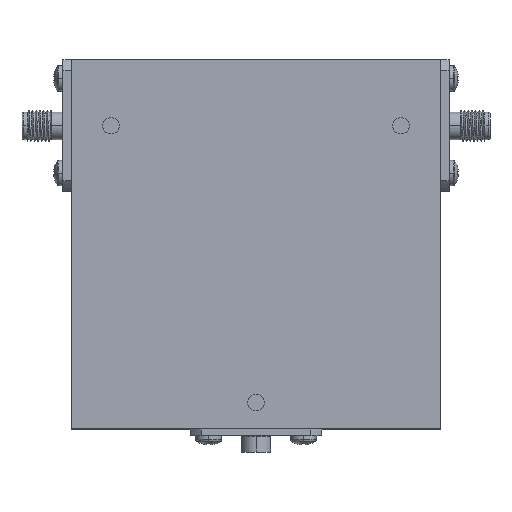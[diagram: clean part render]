
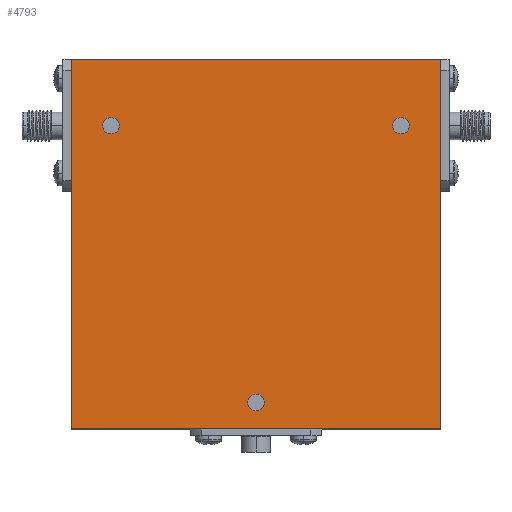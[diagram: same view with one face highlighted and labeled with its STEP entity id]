
A CAD part, top view. The second image highlights one B-rep face of the part: STEP entity #4793.
In plain terms, the highlighted planar face has unit normal (0, 0, 1).
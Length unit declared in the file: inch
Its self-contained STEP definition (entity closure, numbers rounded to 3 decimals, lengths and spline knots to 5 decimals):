
#22 = EDGE_LOOP ( 'NONE', ( #4270, #1710, #1861, #2369 ) ) ;
#32 = VECTOR ( 'NONE', #1581, 39.37008 ) ;
#103 = CARTESIAN_POINT ( 'NONE',  ( 0., 0., 0.5 ) ) ;
#271 = CIRCLE ( 'NONE', #2562, 0.0625 ) ;
#295 = CARTESIAN_POINT ( 'NONE',  ( 1.1, 0.9, 0.5 ) ) ;
#374 = CARTESIAN_POINT ( 'NONE',  ( 1.4, 1.4, 0.5 ) ) ;
#435 = LINE ( 'NONE', #3773, #1905 ) ;
#510 = CIRCLE ( 'NONE', #4164, 0.0625 ) ;
#545 = VERTEX_POINT ( 'NONE', #4291 ) ;
#560 = EDGE_CURVE ( 'NONE', #1837, #545, #510, .T. ) ;
#570 = DIRECTION ( 'NONE',  ( 1., 0., 0. ) ) ;
#584 = DIRECTION ( 'NONE',  ( 0., 0., 1. ) ) ;
#613 = ORIENTED_EDGE ( 'NONE', *, *, #753, .F. ) ;
#748 = AXIS2_PLACEMENT_3D ( 'NONE', #103, #2744, #3478 ) ;
#753 = EDGE_CURVE ( 'NONE', #545, #1837, #2393, .T. ) ;
#801 = ORIENTED_EDGE ( 'NONE', *, *, #4073, .F. ) ;
#824 = DIRECTION ( 'NONE',  ( 1., 0., 0. ) ) ;
#858 = DIRECTION ( 'NONE',  ( 0., -1., 0. ) ) ;
#877 = DIRECTION ( 'NONE',  ( 1., 0., 0. ) ) ;
#904 = LINE ( 'NONE', #374, #4659 ) ;
#968 = EDGE_CURVE ( 'NONE', #1325, #4665, #271, .T. ) ;
#1023 = LINE ( 'NONE', #4206, #32 ) ;
#1325 = VERTEX_POINT ( 'NONE', #3265 ) ;
#1428 = AXIS2_PLACEMENT_3D ( 'NONE', #4624, #2835, #570 ) ;
#1474 = VECTOR ( 'NONE', #858, 39.37008 ) ;
#1498 = DIRECTION ( 'NONE',  ( 1., 0., 0. ) ) ;
#1518 = CARTESIAN_POINT ( 'NONE',  ( 1.4, -1.4, 0.5 ) ) ;
#1575 = CIRCLE ( 'NONE', #4261, 0.0625 ) ;
#1581 = DIRECTION ( 'NONE',  ( -1., 0., 0. ) ) ;
#1680 = DIRECTION ( 'NONE',  ( 1., 0., 0. ) ) ;
#1710 = ORIENTED_EDGE ( 'NONE', *, *, #2735, .T. ) ;
#1745 = CARTESIAN_POINT ( 'NONE',  ( 1.4, 1.4, 0.5 ) ) ;
#1837 = VERTEX_POINT ( 'NONE', #1840 ) ;
#1840 = CARTESIAN_POINT ( 'NONE',  ( 1.1625, 0.9, 0.5 ) ) ;
#1861 = ORIENTED_EDGE ( 'NONE', *, *, #3351, .T. ) ;
#1893 = CARTESIAN_POINT ( 'NONE',  ( -1.4, 1.4, 0.5 ) ) ;
#1905 = VECTOR ( 'NONE', #1498, 39.37008 ) ;
#1927 = EDGE_CURVE ( 'NONE', #2027, #2877, #904, .T. ) ;
#1933 = EDGE_CURVE ( 'NONE', #2695, #2027, #435, .T. ) ;
#1991 = FACE_OUTER_BOUND ( 'NONE', #22, .T. ) ;
#2027 = VERTEX_POINT ( 'NONE', #1518 ) ;
#2369 = ORIENTED_EDGE ( 'NONE', *, *, #1933, .T. ) ;
#2393 = CIRCLE ( 'NONE', #4474, 0.0625 ) ;
#2468 = CARTESIAN_POINT ( 'NONE',  ( 1.1, 0.9, 0.5 ) ) ;
#2486 = CIRCLE ( 'NONE', #4518, 0.0625 ) ;
#2554 = ORIENTED_EDGE ( 'NONE', *, *, #968, .F. ) ;
#2562 = AXIS2_PLACEMENT_3D ( 'NONE', #3028, #3075, #824 ) ;
#2695 = VERTEX_POINT ( 'NONE', #3106 ) ;
#2696 = ORIENTED_EDGE ( 'NONE', *, *, #560, .F. ) ;
#2708 = FACE_BOUND ( 'NONE', #3984, .T. ) ;
#2735 = EDGE_CURVE ( 'NONE', #2877, #4617, #1023, .T. ) ;
#2744 = DIRECTION ( 'NONE',  ( 0., 0., 1. ) ) ;
#2778 = DIRECTION ( 'NONE',  ( 0., 0., 1. ) ) ;
#2816 = DIRECTION ( 'NONE',  ( 1., 0., 0. ) ) ;
#2817 = EDGE_LOOP ( 'NONE', ( #2554, #2852 ) ) ;
#2835 = DIRECTION ( 'NONE',  ( 0., 0., 1. ) ) ;
#2852 = ORIENTED_EDGE ( 'NONE', *, *, #4485, .F. ) ;
#2877 = VERTEX_POINT ( 'NONE', #1745 ) ;
#2909 = VERTEX_POINT ( 'NONE', #3654 ) ;
#2953 = FACE_BOUND ( 'NONE', #2817, .T. ) ;
#3028 = CARTESIAN_POINT ( 'NONE',  ( -1.1, 0.9, 0.5 ) ) ;
#3075 = DIRECTION ( 'NONE',  ( 0., 0., 1. ) ) ;
#3106 = CARTESIAN_POINT ( 'NONE',  ( -1.4, -1.4, 0.5 ) ) ;
#3265 = CARTESIAN_POINT ( 'NONE',  ( -1.0375, 0.9, 0.5 ) ) ;
#3329 = CIRCLE ( 'NONE', #1428, 0.0625 ) ;
#3351 = EDGE_CURVE ( 'NONE', #4617, #2695, #3958, .T. ) ;
#3465 = PLANE ( 'NONE',  #748 ) ;
#3478 = DIRECTION ( 'NONE',  ( 1., 0., 0. ) ) ;
#3594 = CARTESIAN_POINT ( 'NONE',  ( 0., -1.2, 0.5 ) ) ;
#3606 = FACE_BOUND ( 'NONE', #4544, .T. ) ;
#3654 = CARTESIAN_POINT ( 'NONE',  ( -0.0625, -1.2, 0.5 ) ) ;
#3699 = DIRECTION ( 'NONE',  ( 0., 0., 1. ) ) ;
#3705 = ORIENTED_EDGE ( 'NONE', *, *, #4831, .F. ) ;
#3773 = CARTESIAN_POINT ( 'NONE',  ( -1.4, -1.4, 0.5 ) ) ;
#3849 = CARTESIAN_POINT ( 'NONE',  ( -1.4, 1.4, 0.5 ) ) ;
#3912 = VERTEX_POINT ( 'NONE', #4222 ) ;
#3958 = LINE ( 'NONE', #3849, #1474 ) ;
#3966 = CARTESIAN_POINT ( 'NONE',  ( -1.1, 0.9, 0.5 ) ) ;
#3984 = EDGE_LOOP ( 'NONE', ( #2696, #613 ) ) ;
#4067 = DIRECTION ( 'NONE',  ( 1., 0., 0. ) ) ;
#4073 = EDGE_CURVE ( 'NONE', #2909, #3912, #3329, .T. ) ;
#4161 = CARTESIAN_POINT ( 'NONE',  ( -1.1625, 0.9, 0.5 ) ) ;
#4164 = AXIS2_PLACEMENT_3D ( 'NONE', #2468, #584, #2816 ) ;
#4206 = CARTESIAN_POINT ( 'NONE',  ( -1.4, 1.4, 0.5 ) ) ;
#4222 = CARTESIAN_POINT ( 'NONE',  ( 0.0625, -1.2, 0.5 ) ) ;
#4261 = AXIS2_PLACEMENT_3D ( 'NONE', #3594, #2778, #877 ) ;
#4270 = ORIENTED_EDGE ( 'NONE', *, *, #1927, .T. ) ;
#4291 = CARTESIAN_POINT ( 'NONE',  ( 1.0375, 0.9, 0.5 ) ) ;
#4474 = AXIS2_PLACEMENT_3D ( 'NONE', #295, #3699, #4067 ) ;
#4485 = EDGE_CURVE ( 'NONE', #4665, #1325, #2486, .T. ) ;
#4491 = DIRECTION ( 'NONE',  ( 0., 1., 0. ) ) ;
#4518 = AXIS2_PLACEMENT_3D ( 'NONE', #3966, #4754, #1680 ) ;
#4544 = EDGE_LOOP ( 'NONE', ( #3705, #801 ) ) ;
#4617 = VERTEX_POINT ( 'NONE', #1893 ) ;
#4624 = CARTESIAN_POINT ( 'NONE',  ( 0., -1.2, 0.5 ) ) ;
#4659 = VECTOR ( 'NONE', #4491, 39.37008 ) ;
#4665 = VERTEX_POINT ( 'NONE', #4161 ) ;
#4754 = DIRECTION ( 'NONE',  ( 0., 0., 1. ) ) ;
#4793 = ADVANCED_FACE ( 'NONE', ( #2708, #3606, #2953, #1991 ), #3465, .T. ) ;
#4831 = EDGE_CURVE ( 'NONE', #3912, #2909, #1575, .T. ) ;
